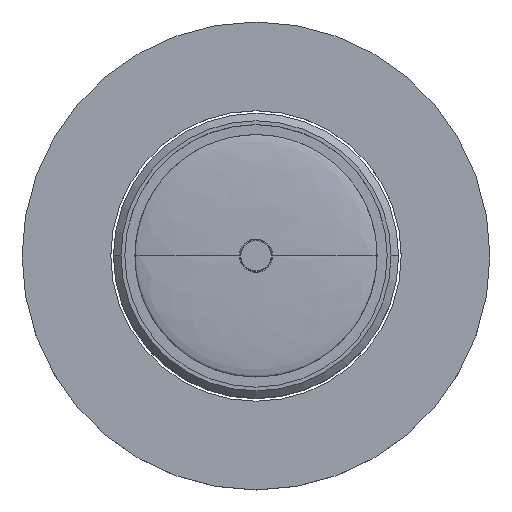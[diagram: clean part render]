
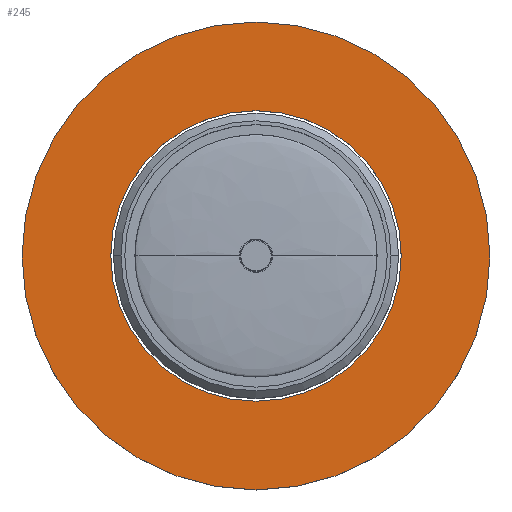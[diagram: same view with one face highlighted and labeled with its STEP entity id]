
A CAD part, top view. The second image highlights one B-rep face of the part: STEP entity #245.
In plain terms, the highlighted planar face has unit normal (0, 0, 1).
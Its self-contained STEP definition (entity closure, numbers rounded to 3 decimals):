
#16 = ORIENTED_EDGE ( 'NONE', *, *, #980, .F. ) ;
#18 = AXIS2_PLACEMENT_3D ( 'NONE', #636, #72, #999 ) ;
#38 = DIRECTION ( 'NONE',  ( 0., 0., -1. ) ) ;
#54 = EDGE_CURVE ( 'NONE', #1147, #1192, #931, .T. ) ;
#72 = DIRECTION ( 'NONE',  ( 0., 0., -1. ) ) ;
#105 = DIRECTION ( 'NONE',  ( -1., 0., 0. ) ) ;
#111 = CARTESIAN_POINT ( 'NONE',  ( 0., 0., 16. ) ) ;
#234 = EDGE_LOOP ( 'NONE', ( #1054, #675 ) ) ;
#245 = ADVANCED_FACE ( 'NONE', ( #771, #364 ), #670, .F. ) ;
#276 = DIRECTION ( 'NONE',  ( -1., 0., 0. ) ) ;
#283 = CARTESIAN_POINT ( 'NONE',  ( 19.2, 0., 16. ) ) ;
#288 = CARTESIAN_POINT ( 'NONE',  ( 0., 0., 16. ) ) ;
#293 = DIRECTION ( 'NONE',  ( 0., 0., -1. ) ) ;
#302 = CARTESIAN_POINT ( 'NONE',  ( 0., 0., 16. ) ) ;
#314 = EDGE_CURVE ( 'NONE', #1002, #861, #979, .T. ) ;
#364 = FACE_OUTER_BOUND ( 'NONE', #1023, .T. ) ;
#393 = DIRECTION ( 'NONE',  ( -1., 0., 0. ) ) ;
#425 = CIRCLE ( 'NONE', #18, 19.2 ) ;
#517 = EDGE_CURVE ( 'NONE', #1192, #1147, #425, .T. ) ;
#597 = CARTESIAN_POINT ( 'NONE',  ( -30.925, 0., 16. ) ) ;
#601 = AXIS2_PLACEMENT_3D ( 'NONE', #111, #293, #393 ) ;
#636 = CARTESIAN_POINT ( 'NONE',  ( 0., 0., 16. ) ) ;
#643 = AXIS2_PLACEMENT_3D ( 'NONE', #1156, #38, #870 ) ;
#645 = DIRECTION ( 'NONE',  ( 0., 0., -1. ) ) ;
#665 = ORIENTED_EDGE ( 'NONE', *, *, #314, .F. ) ;
#670 = PLANE ( 'NONE',  #601 ) ;
#675 = ORIENTED_EDGE ( 'NONE', *, *, #54, .T. ) ;
#771 = FACE_BOUND ( 'NONE', #234, .T. ) ;
#861 = VERTEX_POINT ( 'NONE', #1151 ) ;
#870 = DIRECTION ( 'NONE',  ( -1., 0., 0. ) ) ;
#921 = CIRCLE ( 'NONE', #643, 30.925 ) ;
#922 = AXIS2_PLACEMENT_3D ( 'NONE', #288, #645, #276 ) ;
#931 = CIRCLE ( 'NONE', #922, 19.2 ) ;
#941 = AXIS2_PLACEMENT_3D ( 'NONE', #302, #1045, #105 ) ;
#979 = CIRCLE ( 'NONE', #941, 30.925 ) ;
#980 = EDGE_CURVE ( 'NONE', #861, #1002, #921, .T. ) ;
#999 = DIRECTION ( 'NONE',  ( -1., 0., 0. ) ) ;
#1002 = VERTEX_POINT ( 'NONE', #597 ) ;
#1023 = EDGE_LOOP ( 'NONE', ( #665, #16 ) ) ;
#1028 = CARTESIAN_POINT ( 'NONE',  ( -19.2, 0., 16. ) ) ;
#1045 = DIRECTION ( 'NONE',  ( 0., 0., -1. ) ) ;
#1054 = ORIENTED_EDGE ( 'NONE', *, *, #517, .T. ) ;
#1147 = VERTEX_POINT ( 'NONE', #283 ) ;
#1151 = CARTESIAN_POINT ( 'NONE',  ( 30.925, 0., 16. ) ) ;
#1156 = CARTESIAN_POINT ( 'NONE',  ( 0., 0., 16. ) ) ;
#1192 = VERTEX_POINT ( 'NONE', #1028 ) ;
